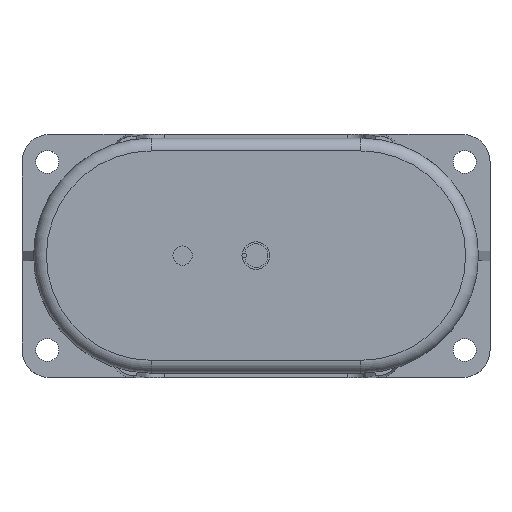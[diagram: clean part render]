
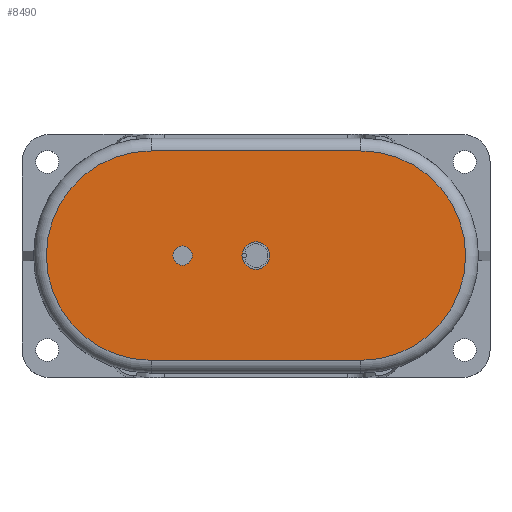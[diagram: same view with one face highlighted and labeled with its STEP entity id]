
A CAD part, top view. The second image highlights one B-rep face of the part: STEP entity #8490.
In plain terms, the highlighted planar face has unit normal (0, 0, 1).
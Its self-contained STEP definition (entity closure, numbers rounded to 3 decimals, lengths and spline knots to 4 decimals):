
#98=FACE_BOUND('',#1245,.T.);
#99=FACE_BOUND('',#1246,.T.);
#770=FACE_OUTER_BOUND('',#1244,.T.);
#1244=EDGE_LOOP('',(#6016,#6017,#6018,#6019));
#1245=EDGE_LOOP('',(#6020,#6021,#6022));
#1246=EDGE_LOOP('',(#6023));
#1800=LINE('',#36020,#2450);
#1802=LINE('',#36029,#2452);
#2450=VECTOR('',#10132,5.7188);
#2452=VECTOR('',#10144,5.7188);
#2950=CIRCLE('',#8948,0.0625);
#2951=CIRCLE('',#8949,0.0625);
#2961=CIRCLE('',#8965,0.375);
#2990=CIRCLE('',#9019,0.2635);
#2997=CIRCLE('',#9033,2.8515);
#3000=CIRCLE('',#9038,2.8515);
#3371=VERTEX_POINT('',#35176);
#3372=VERTEX_POINT('',#35177);
#3373=VERTEX_POINT('',#35179);
#3486=VERTEX_POINT('',#35896);
#3495=VERTEX_POINT('',#36008);
#3498=VERTEX_POINT('',#36013);
#3500=VERTEX_POINT('',#36018);
#3502=VERTEX_POINT('',#36024);
#4276=EDGE_CURVE('',#3371,#3372,#2950,.T.);
#4277=EDGE_CURVE('',#3373,#3371,#2951,.T.);
#4287=EDGE_CURVE('',#3372,#3373,#2961,.T.);
#4420=EDGE_CURVE('',#3486,#3486,#2990,.T.);
#4439=EDGE_CURVE('',#3498,#3495,#2997,.T.);
#4441=EDGE_CURVE('',#3500,#3498,#1800,.T.);
#4444=EDGE_CURVE('',#3502,#3500,#3000,.T.);
#4446=EDGE_CURVE('',#3495,#3502,#1802,.T.);
#6016=ORIENTED_EDGE('',*,*,#4439,.F.);
#6017=ORIENTED_EDGE('',*,*,#4441,.F.);
#6018=ORIENTED_EDGE('',*,*,#4444,.F.);
#6019=ORIENTED_EDGE('',*,*,#4446,.F.);
#6020=ORIENTED_EDGE('',*,*,#4287,.T.);
#6021=ORIENTED_EDGE('',*,*,#4277,.T.);
#6022=ORIENTED_EDGE('',*,*,#4276,.T.);
#6023=ORIENTED_EDGE('',*,*,#4420,.T.);
#7670=PLANE('',#9044);
#8490=ADVANCED_FACE('',(#770,#98,#99),#7670,.T.);
#8948=AXIS2_PLACEMENT_3D('',#35178,#9890,#9891);
#8949=AXIS2_PLACEMENT_3D('',#35180,#9892,#9893);
#8965=AXIS2_PLACEMENT_3D('',#35203,#9924,#9925);
#9019=AXIS2_PLACEMENT_3D('',#35897,#10090,#10091);
#9033=AXIS2_PLACEMENT_3D('',#36015,#10126,#10127);
#9038=AXIS2_PLACEMENT_3D('',#36026,#10138,#10139);
#9044=AXIS2_PLACEMENT_3D('',#36041,#10156,#10157);
#9890=DIRECTION('center_axis',(0.,0.,
-1.));
#9891=DIRECTION('ref_axis',(1.,0.,0.));
#9892=DIRECTION('center_axis',(0.,0.,
-1.));
#9893=DIRECTION('ref_axis',(1.,0.,0.));
#9924=DIRECTION('center_axis',(0.,0.,
-1.));
#9925=DIRECTION('ref_axis',(0.938,-0.348,0.));
#10090=DIRECTION('center_axis',(0.,0.,
-1.));
#10091=DIRECTION('ref_axis',(1.,0.,0.));
#10126=DIRECTION('center_axis',(0.,0.,
-1.));
#10127=DIRECTION('ref_axis',(1.,0.,0.));
#10132=DIRECTION('',(1.,0.,0.));
#10138=DIRECTION('center_axis',(0.,0.,
-1.));
#10139=DIRECTION('ref_axis',(-1.,0.,0.));
#10144=DIRECTION('',(-1.,0.,0.));
#10156=DIRECTION('center_axis',(0.,0.,
1.));
#10157=DIRECTION('ref_axis',(1.,0.,0.));
#35176=CARTESIAN_POINT('',(-0.3835,0.,6.5));
#35177=CARTESIAN_POINT('',(-0.3735,0.034,6.5));
#35178=CARTESIAN_POINT('Origin',(-0.321,0.,6.5));
#35179=CARTESIAN_POINT('',(-0.3735,-0.034,6.5));
#35180=CARTESIAN_POINT('Origin',(-0.321,0.,6.5));
#35203=CARTESIAN_POINT('Origin',(0.,0.,
6.5));
#35896=CARTESIAN_POINT('',(-1.7365,0.,6.5));
#35897=CARTESIAN_POINT('Origin',(-2.,0.,6.5));
#36008=CARTESIAN_POINT('',(2.8594,-2.8515,6.5));
#36013=CARTESIAN_POINT('',(2.8594,2.8515,6.5));
#36015=CARTESIAN_POINT('Origin',(2.8594,0.,6.5));
#36018=CARTESIAN_POINT('',(-2.8594,2.8515,6.5));
#36020=CARTESIAN_POINT('',(1.4297,2.8515,6.5));
#36024=CARTESIAN_POINT('',(-2.8594,-2.8515,6.5));
#36026=CARTESIAN_POINT('Origin',(-2.8594,0.,6.5));
#36029=CARTESIAN_POINT('',(-1.4297,-2.8515,6.5));
#36041=CARTESIAN_POINT('Origin',(0.,0.,
6.5));
